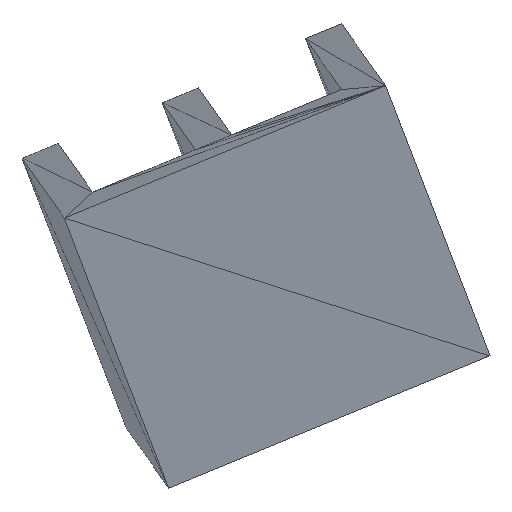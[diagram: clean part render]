
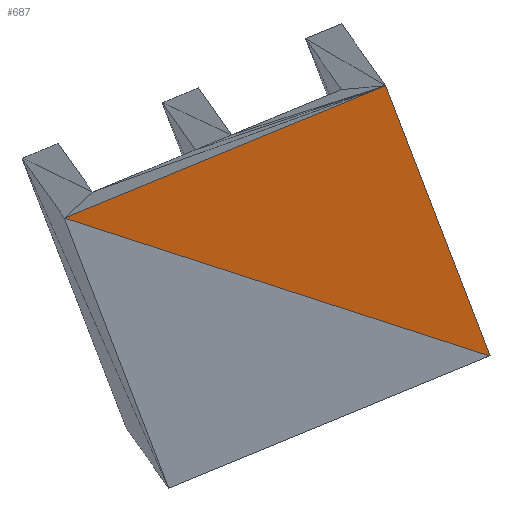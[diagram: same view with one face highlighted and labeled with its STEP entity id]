
A CAD part, left-side view. The second image highlights one B-rep face of the part: STEP entity #687.
In plain terms, the highlighted planar face has unit normal (-0.953, -0.176, -0.248) as drawn and (0.953, 0.176, 0.248) by its records, which use the part's own axes.
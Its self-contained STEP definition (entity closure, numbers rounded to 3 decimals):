
#61=DIRECTION('',(0.248,-0.922,-0.299));
#64=DIRECTION('',(0.296,-0.345,-0.891));
#89=DIRECTION('',(-0.071,0.922,-0.38));
#115=VECTOR('',#61,1.);
#118=VECTOR('',#64,1.);
#143=VECTOR('',#89,1.);
#154=CARTESIAN_POINT('',(-4.543,-3.916,0.419));
#155=CARTESIAN_POINT('',(-4.573,-3.518,0.255));
#173=CARTESIAN_POINT('',(-4.432,-4.045,0.085));
#178=VERTEX_POINT('',#154);
#179=VERTEX_POINT('',#155);
#197=VERTEX_POINT('',#173);
#202=LINE('',#154,#143);
#205=LINE('',#154,#118);
#206=LINE('',#155,#115);
#268=EDGE_CURVE('',#178,#179,#202,.T.);
#271=EDGE_CURVE('',#178,#197,#205,.T.);
#272=EDGE_CURVE('',#179,#197,#206,.T.);
#337=ORIENTED_EDGE('',*,*,#271,.T.);
#400=ORIENTED_EDGE('',*,*,#268,.F.);
#404=ORIENTED_EDGE('',*,*,#272,.F.);
#467=EDGE_LOOP('',(#400,#337,#404));
#511=FACE_OUTER_BOUND('',#467,.T.);
#556=DIRECTION('',(0.953,0.176,0.248));
#557=AXIS2_PLACEMENT_3D('',#155,#556,#89);
#643=PLANE('',#557);
#687=ADVANCED_FACE('',(#511),#643,.T.);
